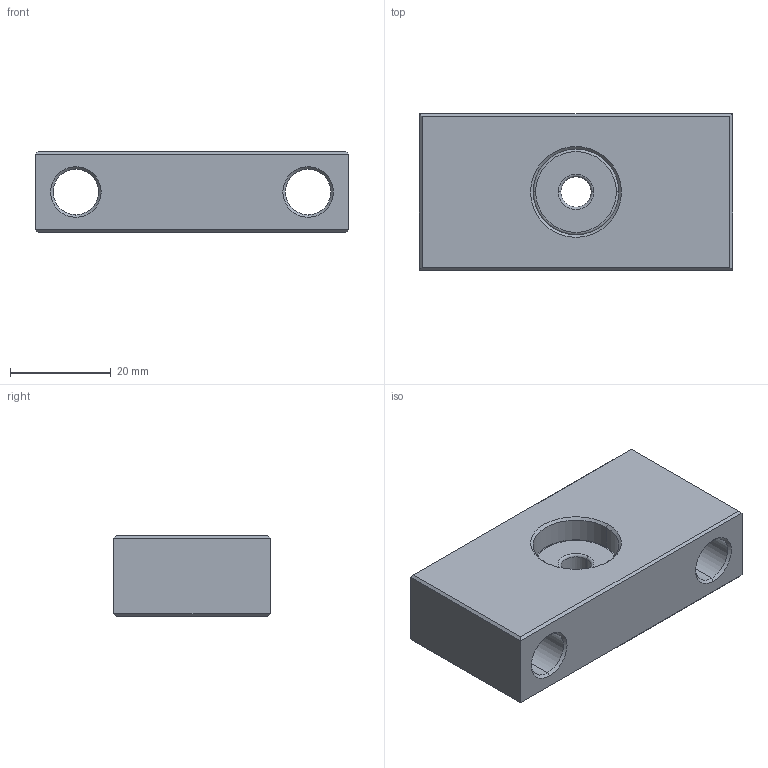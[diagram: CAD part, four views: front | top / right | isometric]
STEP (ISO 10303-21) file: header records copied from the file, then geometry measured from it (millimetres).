
FILE_DESCRIPTION (( 'STEP AP203' ), '1' );
FILE_NAME ('CSGF-8_203.STEP', '2013-03-03T01:23:23', ( 'Z77' ), ( '' ), 'SwSTEP 2.0', 'SolidWorks 2012', '' );
FILE_SCHEMA (( 'CONFIG_CONTROL_DESIGN' ));
Length unit declared in the file: millimetre
Products named in the file (1): CSGF-8_203
Bounding box: 62 x 31 x 16 mm (x, y, z)
Volume: 21030.6 mm3; surface area: 9369 mm2
Topology: 1 solids, 1 shells, 54 faces, 114 edges, 64 vertices
Faces by surface type: plane 20, cylinder 14, cone 12, torus 8
Entity records: 1515 total; most frequent: DIRECTION 280, CARTESIAN_POINT 233, ORIENTED_EDGE 228, EDGE_CURVE 114, AXIS2_PLACEMENT_3D 111, VERTEX_POINT 64, EDGE_LOOP 62, LINE 58
